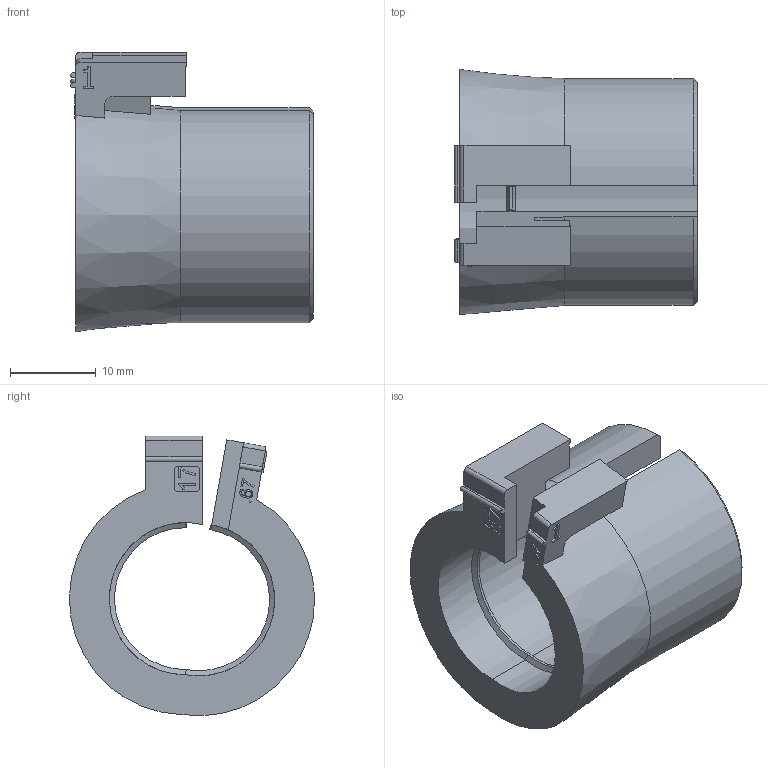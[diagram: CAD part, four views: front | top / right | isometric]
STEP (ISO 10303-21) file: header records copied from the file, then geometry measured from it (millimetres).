
FILE_DESCRIPTION(/* description */ (''),/* implementation_level */ '2;1');
FILE_NAME(/* name */ 'C:\SapWorkDir\Inventor\MP1\ConvertTempPath\87_12_121361_00_A_220530_KDT-X 17.stp',/* time_stamp */ '2022-05-31T13:08:12+02:00',/* author */ ('BAUER'),/* organization */ (''),/* preprocessor_version */ 'ST-DEVELOPER v16.13',/* originating_system */ 'Autodesk Inventor 2018',/* authorisation */ '');
FILE_SCHEMA (('AP203_CONFIGURATION_CONTROLLED_3D_DESIGN_OF_MECHANICAL_PARTS_AND_ASSEMBLIES_MIM_LF { 1 0 10303 203 3 1 4 }','AUTOMOTIVE_DESIGN { 1 0 10303 214 3 1 1 }'));
Length unit declared in the file: millimetre
Products named in the file (1): 121361
Bounding box: 28.4 x 28.68 x 32.7 mm (x, y, z)
Volume: 7835 mm3; surface area: 5119.6 mm2
Topology: 1 solids, 1 shells, 142 faces, 378 edges, 246 vertices
Faces by surface type: plane 87, cylinder 24, bspline 23, cone 8
Entity records: 4624 total; most frequent: CARTESIAN_POINT 1061, ORIENTED_EDGE 756, DIRECTION 623, EDGE_CURVE 378, LINE 267, VECTOR 267, VERTEX_POINT 246, AXIS2_PLACEMENT_3D 178
